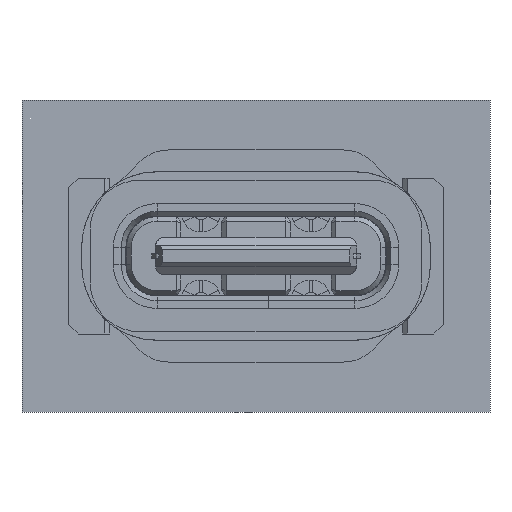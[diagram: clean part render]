
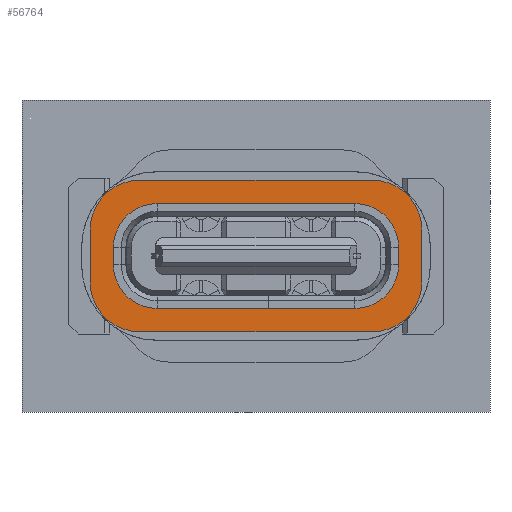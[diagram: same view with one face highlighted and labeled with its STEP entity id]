
A CAD part, front view. The second image highlights one B-rep face of the part: STEP entity #56764.
In plain terms, the highlighted planar face has unit normal (0, -1, 0).
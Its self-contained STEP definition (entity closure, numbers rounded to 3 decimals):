
#56337=DIRECTION('',(0.,0.,-1.));
#56338=VECTOR('',#56337,0.56);
#56339=CARTESIAN_POINT('',(4.57,-0.95,0.28));
#56340=LINE('',#56339,#56338);
#56344=CARTESIAN_POINT('',(3.17,-0.95,0.28));
#56345=DIRECTION('',(0.,1.,0.));
#56346=DIRECTION('',(0.,0.,1.));
#56347=AXIS2_PLACEMENT_3D('',#56344,#56345,#56346);
#56352=DIRECTION('',(1.,0.,0.));
#56353=VECTOR('',#56352,6.34);
#56354=CARTESIAN_POINT('',(-3.17,-0.95,1.68));
#56355=LINE('',#56354,#56353);
#56359=CARTESIAN_POINT('',(-3.17,-0.95,0.28));
#56360=DIRECTION('',(0.,1.,0.));
#56361=DIRECTION('',(-1.,0.,0.));
#56362=AXIS2_PLACEMENT_3D('',#56359,#56360,#56361);
#56367=DIRECTION('',(0.,0.,1.));
#56368=VECTOR('',#56367,0.56);
#56369=CARTESIAN_POINT('',(-4.57,-0.95,-0.28));
#56370=LINE('',#56369,#56368);
#56374=CARTESIAN_POINT('',(-3.17,-0.95,-0.28));
#56375=DIRECTION('',(0.,1.,0.));
#56376=DIRECTION('',(0.,0.,-1.));
#56377=AXIS2_PLACEMENT_3D('',#56374,#56375,#56376);
#56382=DIRECTION('',(-1.,0.,0.));
#56383=VECTOR('',#56382,6.34);
#56384=CARTESIAN_POINT('',(3.17,-0.95,-1.68));
#56385=LINE('',#56384,#56383);
#56389=CARTESIAN_POINT('',(3.17,-0.95,-0.28));
#56390=DIRECTION('',(0.,1.,0.));
#56391=DIRECTION('',(1.,0.,0.));
#56392=AXIS2_PLACEMENT_3D('',#56389,#56390,#56391);
#56397=CARTESIAN_POINT('',(3.72,-0.95,0.83));
#56398=DIRECTION('',(0.,-1.,0.));
#56399=DIRECTION('',(1.,0.,0.));
#56400=AXIS2_PLACEMENT_3D('',#56397,#56398,#56399);
#56405=DIRECTION('',(0.,0.,1.));
#56406=VECTOR('',#56405,1.66);
#56407=CARTESIAN_POINT('',(5.32,-0.95,-0.83));
#56408=LINE('',#56407,#56406);
#56412=CARTESIAN_POINT('',(3.72,-0.95,-0.83));
#56413=DIRECTION('',(0.,-1.,0.));
#56414=DIRECTION('',(0.,0.,-1.));
#56415=AXIS2_PLACEMENT_3D('',#56412,#56413,#56414);
#56420=DIRECTION('',(1.,0.,0.));
#56421=VECTOR('',#56420,7.44);
#56422=CARTESIAN_POINT('',(-3.72,-0.95,-2.43));
#56423=LINE('',#56422,#56421);
#56427=CARTESIAN_POINT('',(-3.72,-0.95,-0.83));
#56428=DIRECTION('',(0.,-1.,0.));
#56429=DIRECTION('',(-1.,0.,0.));
#56430=AXIS2_PLACEMENT_3D('',#56427,#56428,#56429);
#56435=DIRECTION('',(0.,0.,-1.));
#56436=VECTOR('',#56435,1.66);
#56437=CARTESIAN_POINT('',(-5.32,-0.95,0.83));
#56438=LINE('',#56437,#56436);
#56442=CARTESIAN_POINT('',(-3.72,-0.95,0.83));
#56443=DIRECTION('',(0.,-1.,0.));
#56444=DIRECTION('',(0.,0.,1.));
#56445=AXIS2_PLACEMENT_3D('',#56442,#56443,#56444);
#56450=DIRECTION('',(-1.,0.,0.));
#56451=VECTOR('',#56450,7.44);
#56452=CARTESIAN_POINT('',(3.72,-0.95,2.43));
#56453=LINE('',#56452,#56451);
#56529=CARTESIAN_POINT('',(4.57,-0.95,0.28));
#56530=CARTESIAN_POINT('',(4.57,-0.95,-0.28));
#56531=VERTEX_POINT('',#56529);
#56532=VERTEX_POINT('',#56530);
#56533=CARTESIAN_POINT('',(3.17,-0.95,-1.68));
#56534=VERTEX_POINT('',#56533);
#56535=CARTESIAN_POINT('',(-3.17,-0.95,-1.68));
#56536=VERTEX_POINT('',#56535);
#56537=CARTESIAN_POINT('',(-4.57,-0.95,-0.28));
#56538=VERTEX_POINT('',#56537);
#56539=CARTESIAN_POINT('',(-4.57,-0.95,0.28));
#56540=VERTEX_POINT('',#56539);
#56541=CARTESIAN_POINT('',(-3.17,-0.95,1.68));
#56542=VERTEX_POINT('',#56541);
#56543=CARTESIAN_POINT('',(3.17,-0.95,1.68));
#56544=VERTEX_POINT('',#56543);
#56549=CARTESIAN_POINT('',(5.32,-0.95,0.83));
#56550=VERTEX_POINT('',#56549);
#56551=CARTESIAN_POINT('',(3.72,-0.95,2.43));
#56552=VERTEX_POINT('',#56551);
#56557=CARTESIAN_POINT('',(3.72,-0.95,-2.43));
#56558=VERTEX_POINT('',#56557);
#56559=CARTESIAN_POINT('',(5.32,-0.95,-0.83));
#56560=VERTEX_POINT('',#56559);
#56565=CARTESIAN_POINT('',(-3.72,-0.95,2.43));
#56566=VERTEX_POINT('',#56565);
#56567=CARTESIAN_POINT('',(-5.32,-0.95,0.83));
#56568=VERTEX_POINT('',#56567);
#56573=CARTESIAN_POINT('',(-5.32,-0.95,-0.83));
#56574=VERTEX_POINT('',#56573);
#56575=CARTESIAN_POINT('',(-3.72,-0.95,-2.43));
#56576=VERTEX_POINT('',#56575);
#56731=CARTESIAN_POINT('',(0.,-0.95,0.));
#56732=DIRECTION('',(0.,-1.,0.));
#56733=DIRECTION('',(1.,0.,0.));
#56734=AXIS2_PLACEMENT_3D('',#56731,#56732,#56733);
#56735=PLANE('',#56734);
#56737=ORIENTED_EDGE('',*,*,#56736,.F.);
#56739=ORIENTED_EDGE('',*,*,#56738,.F.);
#56741=ORIENTED_EDGE('',*,*,#56740,.F.);
#56743=ORIENTED_EDGE('',*,*,#56742,.F.);
#56745=ORIENTED_EDGE('',*,*,#56744,.F.);
#56747=ORIENTED_EDGE('',*,*,#56746,.F.);
#56749=ORIENTED_EDGE('',*,*,#56748,.F.);
#56751=ORIENTED_EDGE('',*,*,#56750,.F.);
#56752=EDGE_LOOP('',(#56737,#56739,#56741,#56743,#56745,#56747,#56749,#56751));
#56753=FACE_OUTER_BOUND('',#56752,.F.);
#56754=ORIENTED_EDGE('',*,*,#56627,.F.);
#56755=ORIENTED_EDGE('',*,*,#56642,.F.);
#56756=ORIENTED_EDGE('',*,*,#56656,.F.);
#56757=ORIENTED_EDGE('',*,*,#56670,.F.);
#56758=ORIENTED_EDGE('',*,*,#56684,.F.);
#56759=ORIENTED_EDGE('',*,*,#56698,.F.);
#56760=ORIENTED_EDGE('',*,*,#56712,.F.);
#56761=ORIENTED_EDGE('',*,*,#56725,.F.);
#56762=EDGE_LOOP('',(#56754,#56755,#56756,#56757,#56758,#56759,#56760,#56761));
#56763=FACE_BOUND('',#56762,.F.);
#56348=CIRCLE('',#56347,1.4);
#56363=CIRCLE('',#56362,1.4);
#56378=CIRCLE('',#56377,1.4);
#56393=CIRCLE('',#56392,1.4);
#56401=CIRCLE('',#56400,1.6);
#56416=CIRCLE('',#56415,1.6);
#56431=CIRCLE('',#56430,1.6);
#56446=CIRCLE('',#56445,1.6);
#56627=EDGE_CURVE('',#56531,#56532,#56340,.T.);
#56642=EDGE_CURVE('',#56544,#56531,#56348,.T.);
#56656=EDGE_CURVE('',#56542,#56544,#56355,.T.);
#56670=EDGE_CURVE('',#56540,#56542,#56363,.T.);
#56684=EDGE_CURVE('',#56538,#56540,#56370,.T.);
#56698=EDGE_CURVE('',#56536,#56538,#56378,.T.);
#56712=EDGE_CURVE('',#56534,#56536,#56385,.T.);
#56725=EDGE_CURVE('',#56532,#56534,#56393,.T.);
#56736=EDGE_CURVE('',#56550,#56552,#56401,.T.);
#56738=EDGE_CURVE('',#56560,#56550,#56408,.T.);
#56740=EDGE_CURVE('',#56558,#56560,#56416,.T.);
#56742=EDGE_CURVE('',#56576,#56558,#56423,.T.);
#56744=EDGE_CURVE('',#56574,#56576,#56431,.T.);
#56746=EDGE_CURVE('',#56568,#56574,#56438,.T.);
#56748=EDGE_CURVE('',#56566,#56568,#56446,.T.);
#56750=EDGE_CURVE('',#56552,#56566,#56453,.T.);
#56764=ADVANCED_FACE('',(#56753,#56763),#56735,.T.);
